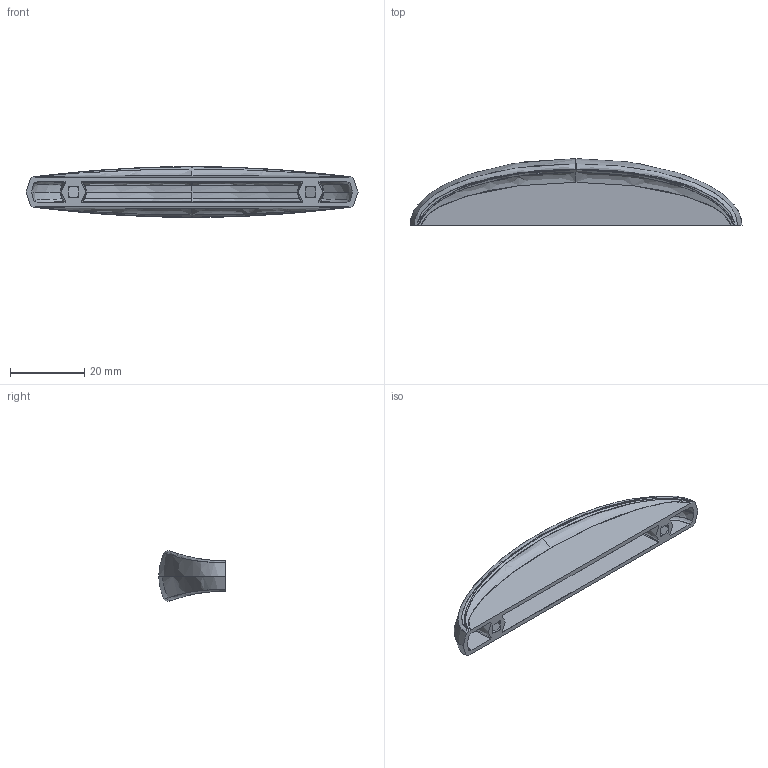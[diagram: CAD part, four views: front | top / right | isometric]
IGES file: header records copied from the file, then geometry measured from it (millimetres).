
Start section: C
Global section: file name: 8221-90.igs; native system: By Siemens PLM Incorporated; preprocessor: XPlus GENERIC/IGES 16.0.42; author: Author; organization: Title; date: 20210505.104250; units: millimetre
Bounding box: 89.6 x 18 x 13.74 mm (x, y, z)
Surface area: 6656.1 mm2 (no closed solid volume)
Topology: 0 solids, 0 shells, 103 faces, 509 edges, 504 vertices
Faces by surface type: bspline 103
